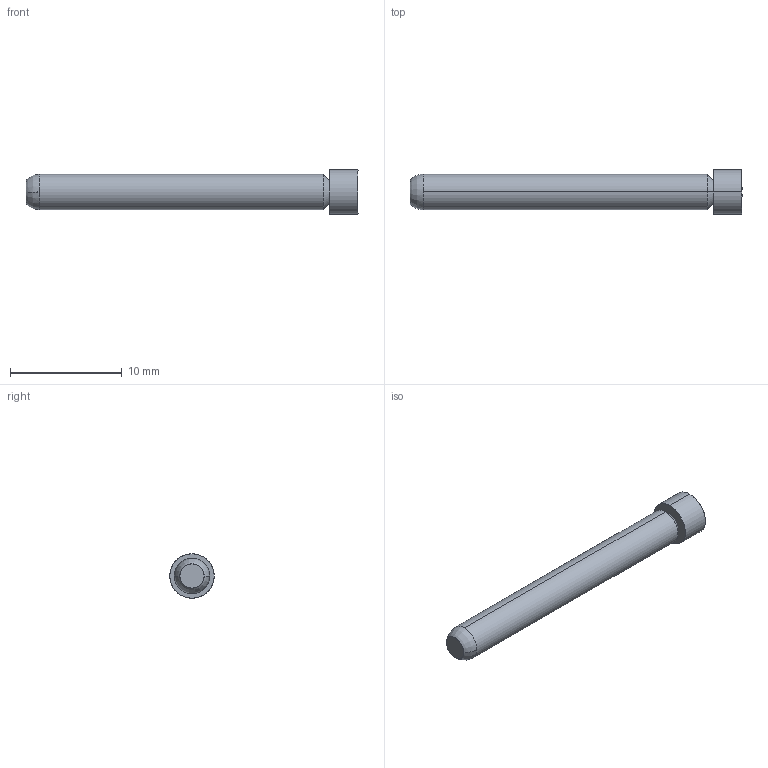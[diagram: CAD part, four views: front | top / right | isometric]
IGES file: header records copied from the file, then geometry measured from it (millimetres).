
Start section: SolidWorks IGES file using analytic representation for surfaces
Global section: file name: Z:\probe solid model mockups\Solidworks models\IGES Files\EPA-5 IGES files\EPA-5A Full.IGS; native system: SolidWorks 2006 by SolidWorks Corporation; preprocessor: SolidWorks 2006 by SolidWorks Corporation; author: tsakatani; date: 080103.110623; units: inch
Bounding box: 29.72 x 3.96 x 3.96 mm (x, y, z)
Surface area: 333.8 mm2 (no closed solid volume)
Topology: 0 solids, 0 shells, 12 faces, 140 edges, 138 vertices
Faces by surface type: revolution 10, bspline 2
